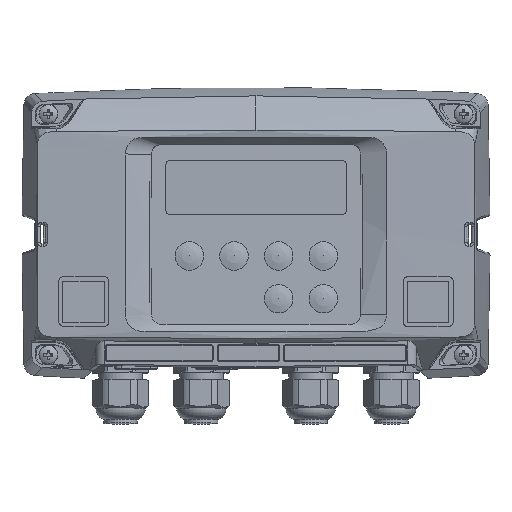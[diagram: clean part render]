
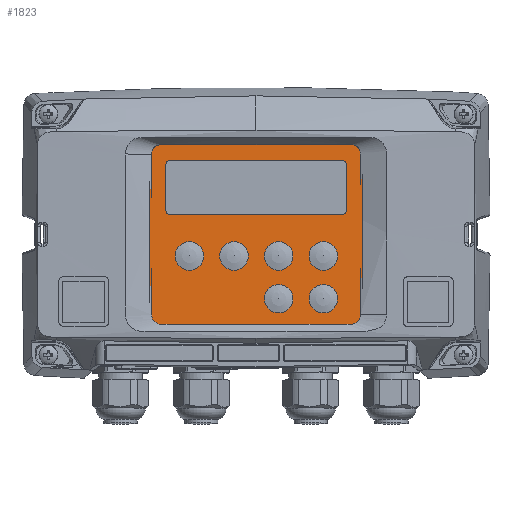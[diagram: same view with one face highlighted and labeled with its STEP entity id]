
A CAD part, top view. The second image highlights one B-rep face of the part: STEP entity #1823.
In plain terms, the highlighted planar face has unit normal (0, 0.04, 0.999).
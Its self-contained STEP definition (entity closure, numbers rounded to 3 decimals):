
#1823=ADVANCED_FACE('',(#13578,#13580,#13582,#13584,#13586,#13588,#13590,#13592),
#13594,.T.);
#13578=FACE_BOUND('',#13579,.T.);
#13579=EDGE_LOOP('',(#31561,#31562,#31563,#31564,#31565,#31566,#31567,#31568));
#13580=FACE_BOUND('',#13581,.T.);
#13581=EDGE_LOOP('',(#31569,#31570,#31571,#31572,#31573,#31574,#31575,#31576));
#13582=FACE_BOUND('',#13583,.T.);
#13583=EDGE_LOOP('',(#31577));
#13584=FACE_BOUND('',#13585,.T.);
#13585=EDGE_LOOP('',(#31578));
#13586=FACE_BOUND('',#13587,.T.);
#13587=EDGE_LOOP('',(#31579));
#13588=FACE_BOUND('',#13589,.T.);
#13589=EDGE_LOOP('',(#31580));
#13590=FACE_BOUND('',#13591,.T.);
#13591=EDGE_LOOP('',(#31581));
#13592=FACE_BOUND('',#13593,.T.);
#13593=EDGE_LOOP('',(#31582));
#13594=PLANE('',#13595);
#13595=AXIS2_PLACEMENT_3D('',#13596,#13597,#13598);
#13596=CARTESIAN_POINT('',(0.,-0.613,26.841));
#13597=DIRECTION('',(0.,0.04,0.999));
#13598=DIRECTION('',(1.,0.,0.));
#31561=ORIENTED_EDGE('',*,*,#38881,.F.);
#31562=ORIENTED_EDGE('',*,*,#38882,.T.);
#31563=ORIENTED_EDGE('',*,*,#38883,.F.);
#31564=ORIENTED_EDGE('',*,*,#38884,.T.);
#31565=ORIENTED_EDGE('',*,*,#38885,.F.);
#31566=ORIENTED_EDGE('',*,*,#38886,.T.);
#31567=ORIENTED_EDGE('',*,*,#38887,.F.);
#31568=ORIENTED_EDGE('',*,*,#38888,.T.);
#31569=ORIENTED_EDGE('',*,*,#38889,.F.);
#31570=ORIENTED_EDGE('',*,*,#38890,.T.);
#31571=ORIENTED_EDGE('',*,*,#38891,.F.);
#31572=ORIENTED_EDGE('',*,*,#38892,.T.);
#31573=ORIENTED_EDGE('',*,*,#38893,.F.);
#31574=ORIENTED_EDGE('',*,*,#38894,.T.);
#31575=ORIENTED_EDGE('',*,*,#38895,.F.);
#31576=ORIENTED_EDGE('',*,*,#38896,.T.);
#31577=ORIENTED_EDGE('',*,*,#38897,.F.);
#31578=ORIENTED_EDGE('',*,*,#38898,.F.);
#31579=ORIENTED_EDGE('',*,*,#38899,.F.);
#31580=ORIENTED_EDGE('',*,*,#38900,.F.);
#31581=ORIENTED_EDGE('',*,*,#38901,.F.);
#31582=ORIENTED_EDGE('',*,*,#38902,.F.);
#38881=EDGE_CURVE('',#43535,#43536,#43537,.F.);
#38882=EDGE_CURVE('',#43535,#43538,#43539,.T.);
#38883=EDGE_CURVE('',#43540,#43538,#43541,.F.);
#38884=EDGE_CURVE('',#43540,#43542,#43543,.T.);
#38885=EDGE_CURVE('',#43544,#43542,#43545,.F.);
#38886=EDGE_CURVE('',#43544,#43546,#43547,.T.);
#38887=EDGE_CURVE('',#43548,#43546,#43549,.F.);
#38888=EDGE_CURVE('',#43548,#43536,#43550,.T.);
#38889=EDGE_CURVE('',#43551,#43552,#43553,.F.);
#38890=EDGE_CURVE('',#43551,#43554,#43555,.F.);
#38891=EDGE_CURVE('',#43556,#43554,#43557,.F.);
#38892=EDGE_CURVE('',#43556,#43558,#43559,.F.);
#38893=EDGE_CURVE('',#43560,#43558,#43561,.F.);
#38894=EDGE_CURVE('',#43560,#43562,#43563,.F.);
#38895=EDGE_CURVE('',#43564,#43562,#43565,.F.);
#38896=EDGE_CURVE('',#43564,#43552,#43566,.F.);
#38897=EDGE_CURVE('',#43567,#43567,#43568,.T.);
#38898=EDGE_CURVE('',#43569,#43569,#43570,.T.);
#38899=EDGE_CURVE('',#43571,#43571,#43572,.T.);
#38900=EDGE_CURVE('',#43573,#43573,#43574,.T.);
#38901=EDGE_CURVE('',#43575,#43575,#43576,.T.);
#38902=EDGE_CURVE('',#43577,#43577,#43578,.T.);
#43535=VERTEX_POINT('',#53159);
#43536=VERTEX_POINT('',#53160);
#43537=CIRCLE('',#53161,4.);
#43538=VERTEX_POINT('',#53165);
#43539=LINE('',#53166,#53167);
#43540=VERTEX_POINT('',#53169);
#43541=CIRCLE('',#53170,4.);
#43542=VERTEX_POINT('',#53174);
#43543=LINE('',#53175,#53176);
#43544=VERTEX_POINT('',#53178);
#43545=CIRCLE('',#53179,4.);
#43546=VERTEX_POINT('',#53183);
#43547=LINE('',#53184,#53185);
#43548=VERTEX_POINT('',#53187);
#43549=CIRCLE('',#53188,4.);
#43550=LINE('',#53192,#53193);
#43551=VERTEX_POINT('',#53195);
#43552=VERTEX_POINT('',#53196);
#43553=CIRCLE('',#53197,2.);
#43554=VERTEX_POINT('',#53201);
#43555=LINE('',#53202,#53203);
#43556=VERTEX_POINT('',#53205);
#43557=CIRCLE('',#53206,2.);
#43558=VERTEX_POINT('',#53210);
#43559=LINE('',#53211,#53212);
#43560=VERTEX_POINT('',#53214);
#43561=CIRCLE('',#53215,2.);
#43562=VERTEX_POINT('',#53219);
#43563=LINE('',#53220,#53221);
#43564=VERTEX_POINT('',#53223);
#43565=CIRCLE('',#53224,2.);
#43566=LINE('',#53228,#53229);
#43567=VERTEX_POINT('',#53231);
#43568=CIRCLE('',#53232,6.);
#43569=VERTEX_POINT('',#53236);
#43570=CIRCLE('',#53237,6.);
#43571=VERTEX_POINT('',#53241);
#43572=CIRCLE('',#53242,6.);
#43573=VERTEX_POINT('',#53246);
#43574=CIRCLE('',#53247,6.);
#43575=VERTEX_POINT('',#53251);
#43576=CIRCLE('',#53252,6.);
#43577=VERTEX_POINT('',#53256);
#43578=CIRCLE('',#53257,6.);
#53159=CARTESIAN_POINT('',(-40.75,-39.082,28.383));
#53160=CARTESIAN_POINT('',(-44.75,-35.085,28.223));
#53161=AXIS2_PLACEMENT_3D('',#53162,#53163,#53164);
#53162=CARTESIAN_POINT('',(-40.75,-35.085,28.223));
#53163=DIRECTION('',(0.,0.04,0.999));
#53164=DIRECTION('',(-1.,0.,0.));
#53165=CARTESIAN_POINT('',(40.75,-39.082,28.383));
#53166=CARTESIAN_POINT('',(-40.75,-39.082,28.383));
#53167=VECTOR('',#53168,1.);
#53168=DIRECTION('',(1.,0.,0.));
#53169=CARTESIAN_POINT('',(44.75,-35.085,28.223));
#53170=AXIS2_PLACEMENT_3D('',#53171,#53172,#53173);
#53171=CARTESIAN_POINT('',(40.75,-35.085,28.223));
#53172=DIRECTION('',(0.,0.04,0.999));
#53173=DIRECTION('',(0.,-0.999,0.04));
#53174=CARTESIAN_POINT('',(44.75,33.86,25.46));
#53175=CARTESIAN_POINT('',(44.75,-35.085,28.223));
#53176=VECTOR('',#53177,1.);
#53177=DIRECTION('',(0.,0.999,-0.04));
#53178=CARTESIAN_POINT('',(40.75,37.857,25.3));
#53179=AXIS2_PLACEMENT_3D('',#53180,#53181,#53182);
#53180=CARTESIAN_POINT('',(40.75,33.86,25.46));
#53181=DIRECTION('',(0.,0.04,0.999));
#53182=DIRECTION('',(1.,0.,0.));
#53183=CARTESIAN_POINT('',(-40.75,37.857,25.3));
#53184=CARTESIAN_POINT('',(40.75,37.857,25.3));
#53185=VECTOR('',#53186,1.);
#53186=DIRECTION('',(-1.,0.,0.));
#53187=CARTESIAN_POINT('',(-44.75,33.86,25.46));
#53188=AXIS2_PLACEMENT_3D('',#53189,#53190,#53191);
#53189=CARTESIAN_POINT('',(-40.75,33.86,25.46));
#53190=DIRECTION('',(0.,0.04,0.999));
#53191=DIRECTION('',(0.,0.999,-0.04));
#53192=CARTESIAN_POINT('',(-44.75,33.86,25.46));
#53193=VECTOR('',#53194,1.);
#53194=DIRECTION('',(0.,-0.999,0.04));
#53195=CARTESIAN_POINT('',(-35.95,31.262,25.564));
#53196=CARTESIAN_POINT('',(-37.95,29.263,25.644));
#53197=AXIS2_PLACEMENT_3D('',#53198,#53199,#53200);
#53198=CARTESIAN_POINT('',(-35.95,29.263,25.644));
#53199=DIRECTION('',(0.,-0.04,-0.999));
#53200=DIRECTION('',(-1.,0.,0.));
#53201=CARTESIAN_POINT('',(36.05,31.262,25.564));
#53202=CARTESIAN_POINT('',(36.05,31.262,25.564));
#53203=VECTOR('',#53204,1.);
#53204=DIRECTION('',(-1.,0.,0.));
#53205=CARTESIAN_POINT('',(38.05,29.263,25.644));
#53206=AXIS2_PLACEMENT_3D('',#53207,#53208,#53209);
#53207=CARTESIAN_POINT('',(36.05,29.263,25.644));
#53208=DIRECTION('',(0.,-0.04,-0.999));
#53209=DIRECTION('',(0.,0.999,-0.04));
#53210=CARTESIAN_POINT('',(38.05,10.279,26.405));
#53211=CARTESIAN_POINT('',(38.05,10.279,26.405));
#53212=VECTOR('',#53213,1.);
#53213=DIRECTION('',(0.,0.999,-0.04));
#53214=CARTESIAN_POINT('',(36.05,8.28,26.485));
#53215=AXIS2_PLACEMENT_3D('',#53216,#53217,#53218);
#53216=CARTESIAN_POINT('',(36.05,10.279,26.405));
#53217=DIRECTION('',(0.,-0.04,-0.999));
#53218=DIRECTION('',(1.,0.,0.));
#53219=CARTESIAN_POINT('',(-35.95,8.28,26.485));
#53220=CARTESIAN_POINT('',(-35.95,8.28,26.485));
#53221=VECTOR('',#53222,1.);
#53222=DIRECTION('',(1.,0.,0.));
#53223=CARTESIAN_POINT('',(-37.95,10.279,26.405));
#53224=AXIS2_PLACEMENT_3D('',#53225,#53226,#53227);
#53225=CARTESIAN_POINT('',(-35.95,10.279,26.405));
#53226=DIRECTION('',(0.,-0.04,-0.999));
#53227=DIRECTION('',(0.,-0.999,0.04));
#53228=CARTESIAN_POINT('',(-37.95,29.263,25.644));
#53229=VECTOR('',#53230,1.);
#53230=DIRECTION('',(0.,-0.999,0.04));
#53231=CARTESIAN_POINT('',(-28.05,-15.101,27.422));
#53232=AXIS2_PLACEMENT_3D('',#53233,#53234,#53235);
#53233=CARTESIAN_POINT('',(-28.05,-9.106,27.182));
#53234=DIRECTION('',(0.,0.04,0.999));
#53235=DIRECTION('',(0.,0.999,-0.04));
#53236=CARTESIAN_POINT('',(28.35,-33.086,28.143));
#53237=AXIS2_PLACEMENT_3D('',#53238,#53239,#53240);
#53238=CARTESIAN_POINT('',(28.35,-27.091,27.902));
#53239=DIRECTION('',(0.,0.04,0.999));
#53240=DIRECTION('',(0.,0.999,-0.04));
#53241=CARTESIAN_POINT('',(9.55,-33.086,28.143));
#53242=AXIS2_PLACEMENT_3D('',#53243,#53244,#53245);
#53243=CARTESIAN_POINT('',(9.55,-27.091,27.902));
#53244=DIRECTION('',(0.,0.04,0.999));
#53245=DIRECTION('',(0.,0.999,-0.04));
#53246=CARTESIAN_POINT('',(28.35,-15.101,27.422));
#53247=AXIS2_PLACEMENT_3D('',#53248,#53249,#53250);
#53248=CARTESIAN_POINT('',(28.35,-9.106,27.182));
#53249=DIRECTION('',(0.,0.04,0.999));
#53250=DIRECTION('',(0.,0.999,-0.04));
#53251=CARTESIAN_POINT('',(9.55,-15.101,27.422));
#53252=AXIS2_PLACEMENT_3D('',#53253,#53254,#53255);
#53253=CARTESIAN_POINT('',(9.55,-9.106,27.182));
#53254=DIRECTION('',(0.,0.04,0.999));
#53255=DIRECTION('',(0.,0.999,-0.04));
#53256=CARTESIAN_POINT('',(-9.25,-15.101,27.422));
#53257=AXIS2_PLACEMENT_3D('',#53258,#53259,#53260);
#53258=CARTESIAN_POINT('',(-9.25,-9.106,27.182));
#53259=DIRECTION('',(0.,0.04,0.999));
#53260=DIRECTION('',(0.,0.999,-0.04));
